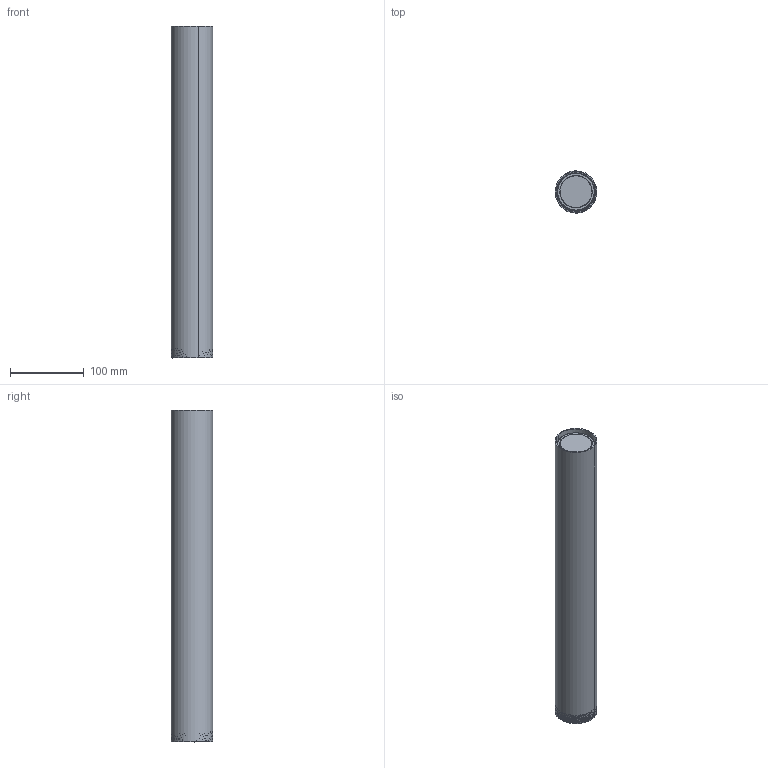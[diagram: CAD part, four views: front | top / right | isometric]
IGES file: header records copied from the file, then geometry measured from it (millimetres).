
Start section: SolidWorks IGES file using analytic representation for surfaces
Global section: file name: \\192.168.111.232\grupos\DISENYO\DESARROLLO DE PRODUCTO\ZOOM-3746\ZOOM - P3764 - CONFIG\ZOOM - P3764 - PLAFON CONFIG.IGS; native system: SolidWorks 2025; preprocessor: SolidWorks 2025; author: o.domenech; date: 260121.105307; units: millimetre
Bounding box: 56.45 x 56.45 x 450 mm (x, y, z)
Volume: 112647.6 mm3; surface area: 192302.3 mm2
Topology: 2 solids, 2 shells, 809 faces, 11730 edges, 14809 vertices
Faces by surface type: bspline 468, revolution 311, plane 30
